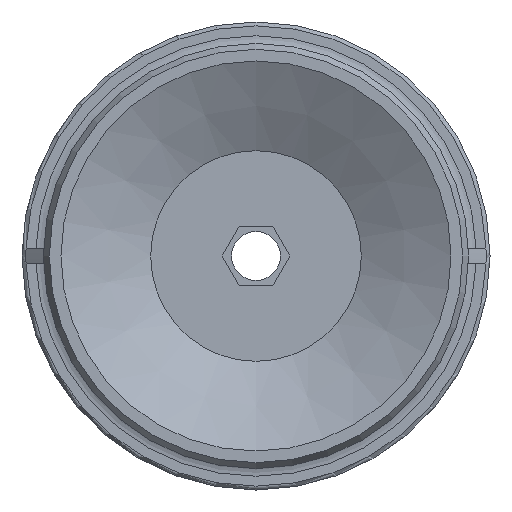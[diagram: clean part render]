
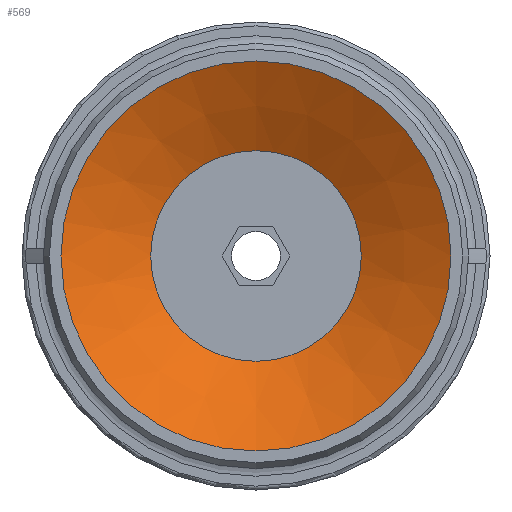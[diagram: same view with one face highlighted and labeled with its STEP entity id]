
A CAD part, front view. The second image highlights one B-rep face of the part: STEP entity #569.
In plain terms, the highlighted conical face has half-angle 61.631 degrees and reference radius 5.4 mm.
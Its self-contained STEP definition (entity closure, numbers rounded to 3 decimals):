
#569=ADVANCED_FACE('',(#852,#853),#854,.F.);
#852=FACE_BOUND('',#1137,.T.);
#853=FACE_OUTER_BOUND('',#1138,.T.);
#854=CONICAL_SURFACE('',#1139,5.4,1.076);
#1137=EDGE_LOOP('',(#1900));
#1138=EDGE_LOOP('',(#1901));
#1139=AXIS2_PLACEMENT_3D('',#1902,#1903,#1904);
#1900=ORIENTED_EDGE('',*,*,#2085,.F.);
#1901=ORIENTED_EDGE('',*,*,#2122,.T.);
#1902=CARTESIAN_POINT('',(0.0,2.484,0.0));
#1903=DIRECTION('',(-0.0,-1.0,0.));
#1904=DIRECTION('',(0.0,0.,-1.0));
#2085=EDGE_CURVE('',#2415,#2415,#2416,.T.);
#2122=EDGE_CURVE('',#2479,#2479,#2480,.T.);
#2415=VERTEX_POINT('',#3163);
#2416=CIRCLE('',#3164,5.4);
#2479=VERTEX_POINT('',#3239);
#2480=CIRCLE('',#3240,10.0);
#3163=CARTESIAN_POINT('',(0.0,2.484,-5.4));
#3164=AXIS2_PLACEMENT_3D('',#3508,#3509,#3510);
#3239=CARTESIAN_POINT('',(0.0,0.,-10.0));
#3240=AXIS2_PLACEMENT_3D('',#3595,#3596,#3597);
#3508=CARTESIAN_POINT('',(0.0,2.484,0.0));
#3509=DIRECTION('',(0.0,-1.0,0.));
#3510=DIRECTION('',(0.0,0.,-1.0));
#3595=CARTESIAN_POINT('',(0.0,0.0,0.0));
#3596=DIRECTION('',(0.0,-1.0,0.));
#3597=DIRECTION('',(0.0,0.,-1.0));
